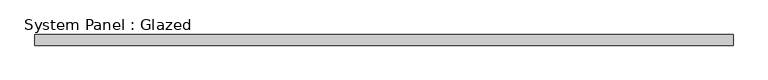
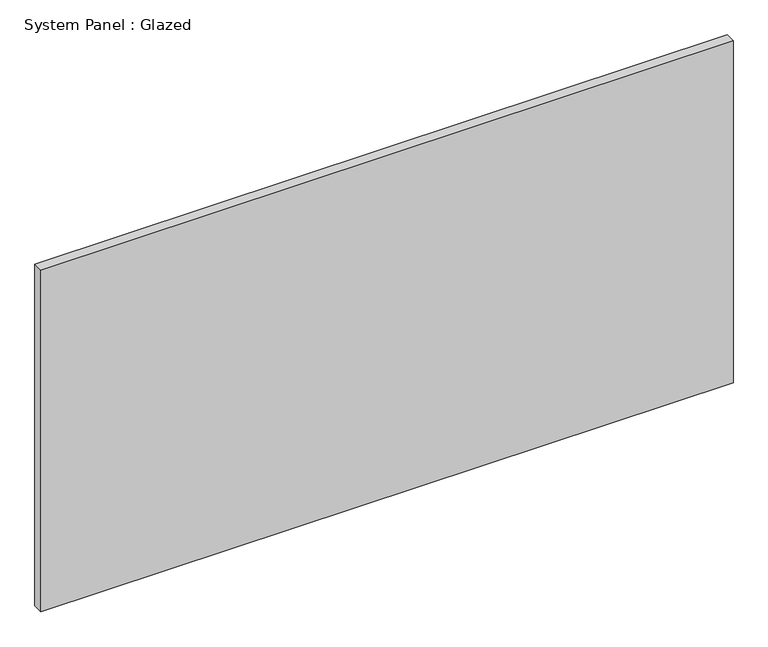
"""IFC4 building model written with IfcOpenShell, lengths in millimetres: plate geometry, System Panel : Glazed."""

from ifc_helpers import new_model, si_unit, origin, origin_with_axes, place, context, project, spatial, polyline, outline, extrude, source, transform, mapped, element, save


def system_panel_glazed_3545c3f7(model_context):
    return source(origin(), model_context, "Body", "SweptSolid", [
        extrude(outline(polyline([(835.4173679, 19.05), (-835.4173679, 19.05), (-835.4173679, 44.45), (835.4173679, 44.45), (835.4173679, 19.05)])), origin_with_axes(), (0.0, 0.0, 1.0), 871.864222),
    ])


if __name__ == "__main__":
    model = new_model("IFC4")
    model_context = context("Model", 3, world=origin())
    ifc_project = project(units=[si_unit("LENGTHUNIT", "METRE", prefix="MILLI")], contexts=[model_context])
    site = spatial("IfcSite", under=ifc_project)
    building = spatial("IfcBuilding", under=site)
    placement = place(None, origin())
    system_panel_glazed_shape = system_panel_glazed_3545c3f7(model_context)
    element("IfcPlate", 1, ObjectType="System Panel : Glazed", at=placement, inside=building, context=model_context, shape_type="MappedRepresentation", body=[
        mapped(system_panel_glazed_shape, transform((0.0, 0.0, 0.0), x_axis=(1.0, 0.0, 0.0), y_axis=(0.0, 1.0, 0.0), z_axis=(0.0, 0.0, 1.0))),
    ])
    save(model, "model.ifc")
